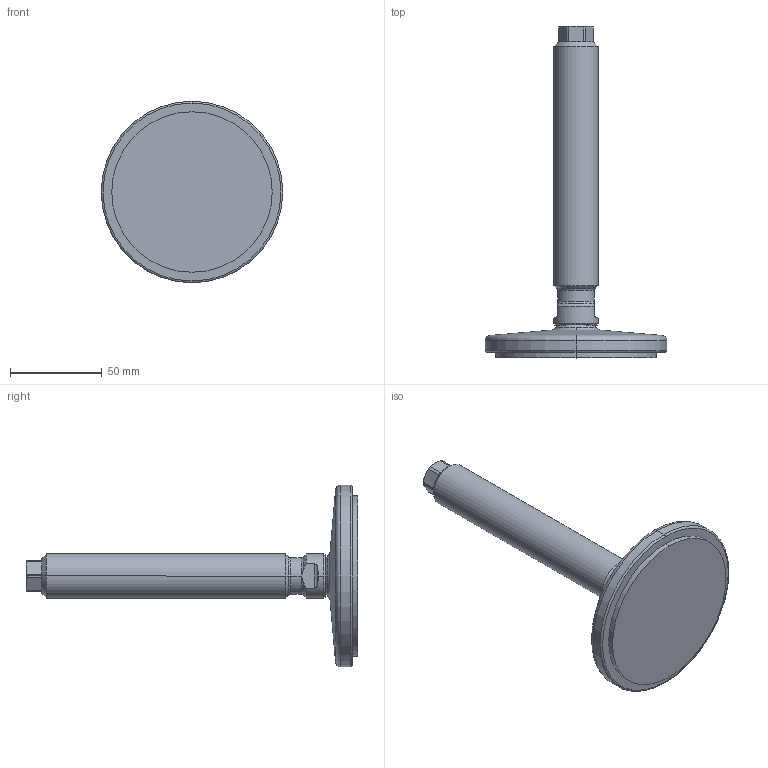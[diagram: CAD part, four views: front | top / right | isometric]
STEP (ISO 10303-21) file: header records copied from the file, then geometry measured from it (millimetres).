
FILE_DESCRIPTION (( 'STEP AP214' ), '1' );
FILE_NAME ('21-100-M24-150-D1-V.step', '2020-10-02T17:37:16', ( '' ), ( '' ), 'SwSTEP 2.0', 'SolidWorks 2019', '' );
FILE_SCHEMA (( 'AUTOMOTIVE_DESIGN' ));
Length unit declared in the file: millimetre
Products named in the file (3): WB21_Spindel_V^WB21_V_M24-150; 21-100-M24-150-D1-V; WB21_Fußteller 21^WB21_V_D1-100-R14-B9 (M24)
Assembly tree (2 placements, depth 2):
  21-100-M24-150-D1-V
    WB21_Fußteller 21^WB21_V_D1-100-R14-B9 (M24)
    WB21_Spindel_V^WB21_V_M24-150
Bounding box: 99 x 180.9 x 99 mm (x, y, z)
Volume: 168938.4 mm3; surface area: 31773 mm2
Topology: 2 solids, 2 shells, 76 faces, 171 edges, 101 vertices
Faces by surface type: cylinder 25, plane 20, cone 17, torus 10, sphere 4
Entity records: 2399 total; most frequent: CARTESIAN_POINT 517, DIRECTION 390, ORIENTED_EDGE 342, EDGE_CURVE 171, AXIS2_PLACEMENT_3D 166, VERTEX_POINT 101, CIRCLE 85, EDGE_LOOP 78
